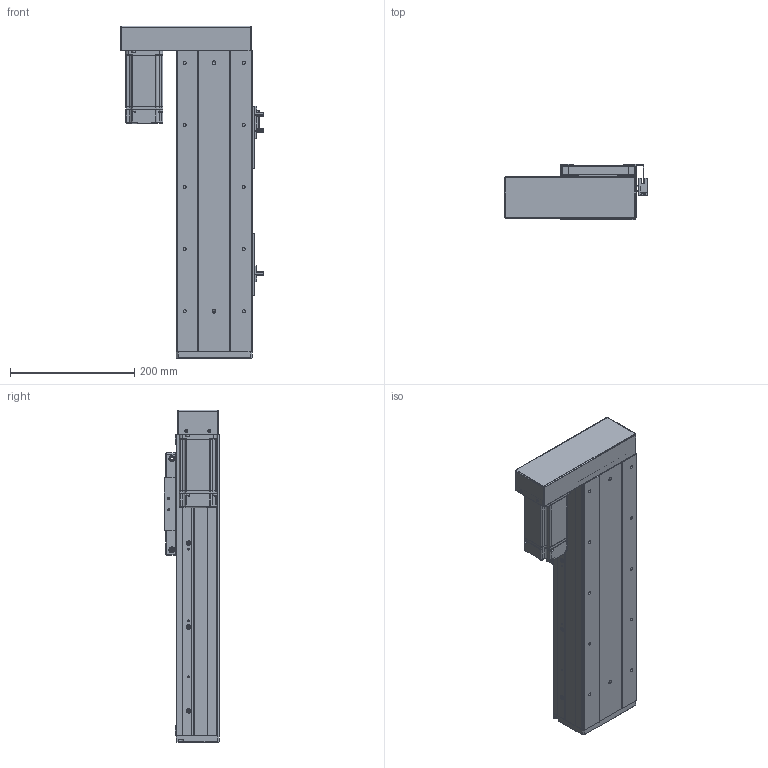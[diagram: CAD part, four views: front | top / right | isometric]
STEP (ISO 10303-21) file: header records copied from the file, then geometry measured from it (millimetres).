
FILE_DESCRIPTION (( 'STEP AP203' ), '1' );
FILE_NAME ('RY120F-L1620-300-LK.SLDASM_250.step', '2021-03-02T08:03:31', ( '盈信电脑' ), ( '东莞市道滘镇水果街19号' ), 'SwSTEP 2.0', 'SolidWorks 2012', '' );
FILE_SCHEMA (( 'CONFIG_CONTROL_DESIGN' ));
Products named in the file (18): RY80俋离覜茼え; FY120F詩湍揤踡輸; 15; 672嫖萇羲壽假蚾釱; 覜茼ん672; RY120F-L1620-300-LK.SLDASM_250; RY120F酘衵殏萇儂欶(200W); RY120F酘衵殏萇儂啣(200W PCD70 M4); 滅袉蝶18-24; RY120F-詩湍幗謫粣; RY120F綴裔啣(臏璃ㄘ; RT120F-臏賑輸 16蹟譫; RT120F-臏賑輸奻釱; RY120F转折电机端支撑座; RY120F祥凄詩滅鳥裔; RY120F滅鳥詩湍-300-LK_250; RT120F-300-倰第裔啣-LK_250; RT120F-300-倰第菁釱-LK_250
Assembly tree (23 placements, depth 2):
  RY120F-L1620-300-LK.SLDASM_250
    RT120F-300-倰第菁釱-LK_250
    RT120F-300-倰第裔啣-LK_250  x2
    RY120F滅鳥詩湍-300-LK_250
    RT120F-臏賑輸 16蹟譫
    RT120F-臏賑輸奻釱
    RY120F转折电机端支撑座
    RY120F祥凄詩滅鳥裔
    滅袉蝶18-24  x2
    RY120F綴裔啣(臏璃ㄘ
    RY120F-詩湍幗謫粣
    覜茼ん672  x3
    672嫖萇羲壽假蚾釱  x2
    RY80俋离覜茼え
    FY120F詩湍揤踡輸  x2
    15
    RY120F酘衵殏萇儂啣(200W PCD70 M4)
    RY120F酘衵殏萇儂欶(200W)
Bounding box: 229.9 x 89 x 534 mm (x, y, z)
Volume: 2373650.9 mm3; surface area: 840075.5 mm2
Topology: 23 solids, 23 shells, 2019 faces, 5413 edges, 3457 vertices
Faces by surface type: plane 896, cylinder 884, cone 213, bspline 26
Entity records: 56459 total; most frequent: CARTESIAN_POINT 10456, DIRECTION 9501, ORIENTED_EDGE 8898, EDGE_CURVE 4449, AXIS2_PLACEMENT_3D 3418, VERTEX_POINT 2901, VECTOR 2665, LINE 2665
